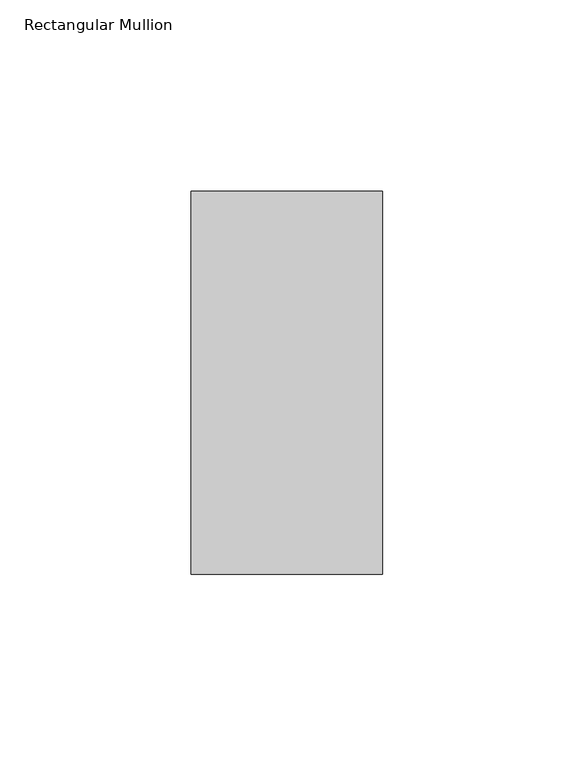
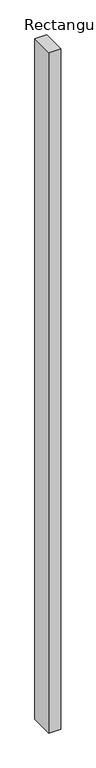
"""IFC4 building model written with IfcOpenShell, lengths in millimetres: member geometry, Rectangular Mullion : Batten_Aluminium_Modinex_AluBatten_50x100_AfricanEbony."""

from ifc_helpers import new_model, si_unit, frame, origin, place, context, project, spatial, polyline, outline, extrude, source, transform, mapped, element, save


def rectangular_mullion_e9fc8109(model_context):
    return source(origin(), model_context, "Body", "SweptSolid", [
        extrude(outline(polyline([(25.0, 100.0), (25.0, 0.0), (-25.0, 0.0), (-25.0, 100.0), (25.0, 100.0)])), frame((0.0, 0.0, -3000.0), z_axis=(0.0, 0.0, 1.0), x_axis=(1.0, 0.0, 0.0)), (0.0, 0.0, 1.0), 3000.0),
    ])


if __name__ == "__main__":
    model = new_model("IFC4")
    model_context = context("Model", 3, world=origin())
    ifc_project = project(units=[si_unit("LENGTHUNIT", "METRE", prefix="MILLI")], contexts=[model_context])
    site = spatial("IfcSite", under=ifc_project)
    building = spatial("IfcBuilding", under=site)
    placement = place(None, origin())
    rectangular_mullion_shape = rectangular_mullion_e9fc8109(model_context)
    element("IfcMember", 1, ObjectType="Rectangular Mullion : Batten_Aluminium_Modinex_AluBatten_50x100_AfricanEbony", at=placement, inside=building, context=model_context, shape_type="MappedRepresentation", body=[
        mapped(rectangular_mullion_shape, transform((0.0, 0.0, 0.0), x_axis=(1.0, 0.0, 0.0), y_axis=(0.0, 1.0, 0.0), z_axis=(0.0, 0.0, 1.0))),
    ])
    save(model, "model.ifc")
